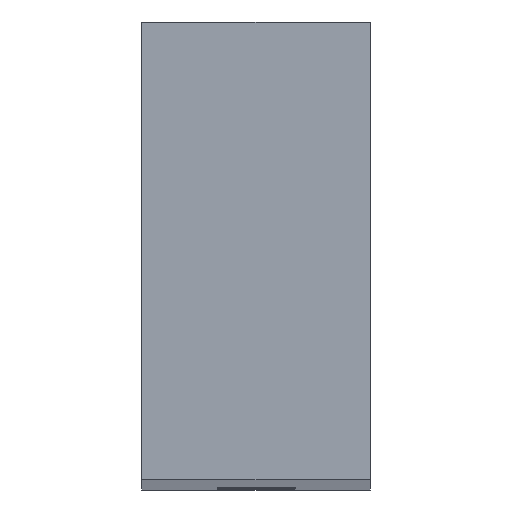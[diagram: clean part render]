
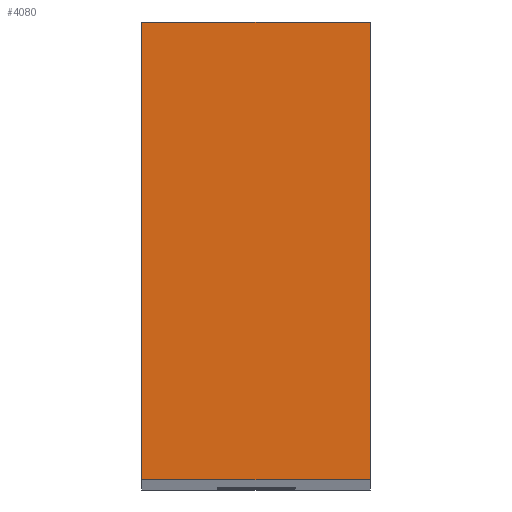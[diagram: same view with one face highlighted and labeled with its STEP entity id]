
A CAD part, top view. The second image highlights one B-rep face of the part: STEP entity #4080.
In plain terms, the highlighted planar face has unit normal (0, 0, 1).
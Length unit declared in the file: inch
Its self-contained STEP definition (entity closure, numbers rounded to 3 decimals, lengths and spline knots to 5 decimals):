
#42 = EDGE_CURVE ( 'NONE', #1361, #671, #5623, .T. ) ;
#77 = CARTESIAN_POINT ( 'NONE',  ( 9.9503, -7.82283, 11.41732 ) ) ;
#227 = CARTESIAN_POINT ( 'NONE',  ( 10.2628, -7.29232, 11.41732 ) ) ;
#275 = CARTESIAN_POINT ( 'NONE',  ( 9.9503, -7.29232, 11.41732 ) ) ;
#574 = EDGE_CURVE ( 'NONE', #671, #6802, #2513, .T. ) ;
#645 = VECTOR ( 'NONE', #4706, 39.37008 ) ;
#671 = VERTEX_POINT ( 'NONE', #275 ) ;
#985 = EDGE_LOOP ( 'NONE', ( #4371, #2943, #1681, #3238 ) ) ;
#1013 = CARTESIAN_POINT ( 'NONE',  ( 10.01969, -7.82283, 11.41732 ) ) ;
#1361 = VERTEX_POINT ( 'NONE', #1659 ) ;
#1504 = VECTOR ( 'NONE', #3756, 39.37008 ) ;
#1596 = VECTOR ( 'NONE', #4849, 39.37008 ) ;
#1626 = CARTESIAN_POINT ( 'NONE',  ( 9.9503, -6.54232, 11.41732 ) ) ;
#1659 = CARTESIAN_POINT ( 'NONE',  ( 10.3253, -7.29232, 11.41732 ) ) ;
#1681 = ORIENTED_EDGE ( 'NONE', *, *, #7055, .F. ) ;
#2102 = CARTESIAN_POINT ( 'NONE',  ( 10.01969, -6.54232, 11.41732 ) ) ;
#2513 = LINE ( 'NONE', #77, #1596 ) ;
#2848 = VECTOR ( 'NONE', #7433, 39.37008 ) ;
#2939 = DIRECTION ( 'NONE',  ( -1., 0., 0. ) ) ;
#2943 = ORIENTED_EDGE ( 'NONE', *, *, #42, .F. ) ;
#3238 = ORIENTED_EDGE ( 'NONE', *, *, #5706, .F. ) ;
#3594 = CARTESIAN_POINT ( 'NONE',  ( 10.3253, -6.54232, 11.41732 ) ) ;
#3756 = DIRECTION ( 'NONE',  ( 1., 0., 0. ) ) ;
#4080 = ADVANCED_FACE ( 'NONE', ( #4633 ), #6440, .F. ) ;
#4371 = ORIENTED_EDGE ( 'NONE', *, *, #574, .F. ) ;
#4595 = DIRECTION ( 'NONE',  ( 0., 0., -1. ) ) ;
#4633 = FACE_OUTER_BOUND ( 'NONE', #985, .T. ) ;
#4706 = DIRECTION ( 'NONE',  ( 0., -1., 0. ) ) ;
#4849 = DIRECTION ( 'NONE',  ( 0., 1., 0. ) ) ;
#4987 = AXIS2_PLACEMENT_3D ( 'NONE', #1013, #4595, #2939 ) ;
#5102 = LINE ( 'NONE', #5660, #645 ) ;
#5407 = VERTEX_POINT ( 'NONE', #3594 ) ;
#5623 = LINE ( 'NONE', #227, #2848 ) ;
#5660 = CARTESIAN_POINT ( 'NONE',  ( 10.3253, -6.79232, 11.41732 ) ) ;
#5706 = EDGE_CURVE ( 'NONE', #6802, #5407, #6868, .T. ) ;
#6440 = PLANE ( 'NONE',  #4987 ) ;
#6802 = VERTEX_POINT ( 'NONE', #1626 ) ;
#6868 = LINE ( 'NONE', #2102, #1504 ) ;
#7055 = EDGE_CURVE ( 'NONE', #5407, #1361, #5102, .T. ) ;
#7433 = DIRECTION ( 'NONE',  ( -1., 0., 0. ) ) ;
